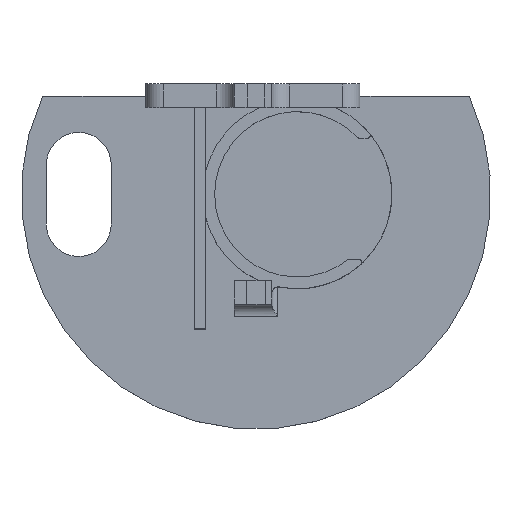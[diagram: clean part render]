
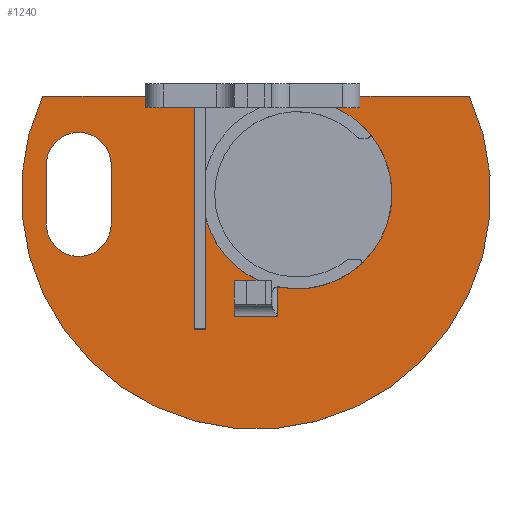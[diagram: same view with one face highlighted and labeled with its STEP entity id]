
A CAD part, top view. The second image highlights one B-rep face of the part: STEP entity #1240.
In plain terms, the highlighted planar face has unit normal (0, 0, 1).
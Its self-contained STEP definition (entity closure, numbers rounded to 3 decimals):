
#17=FACE_BOUND('',#146,.T.);
#33=PLANE('',#1324);
#80=FACE_OUTER_BOUND('',#145,.T.);
#145=EDGE_LOOP('',(#894,#895,#896,#897,#898,#899,#900,#901,#902,#903,#904,
#905,#906,#907,#908,#909,#910));
#146=EDGE_LOOP('',(#911,#912,#913,#914));
#209=LINE('',#1787,#351);
#221=LINE('',#1812,#363);
#240=LINE('',#1856,#382);
#242=LINE('',#1860,#384);
#243=LINE('',#1864,#385);
#244=LINE('',#1866,#386);
#245=LINE('',#1868,#387);
#246=LINE('',#1874,#388);
#247=LINE('',#1876,#389);
#248=LINE('',#1878,#390);
#249=LINE('',#1880,#391);
#250=LINE('',#1884,#392);
#251=LINE('',#1885,#393);
#252=LINE('',#1888,#394);
#253=LINE('',#1892,#395);
#351=VECTOR('',#1428,10.);
#363=VECTOR('',#1444,10.);
#382=VECTOR('',#1483,10.);
#384=VECTOR('',#1487,10.);
#385=VECTOR('',#1490,10.);
#386=VECTOR('',#1491,10.);
#387=VECTOR('',#1492,10.);
#388=VECTOR('',#1497,10.);
#389=VECTOR('',#1498,10.);
#390=VECTOR('',#1499,10.);
#391=VECTOR('',#1500,10.);
#392=VECTOR('',#1503,10.);
#393=VECTOR('',#1504,10.);
#394=VECTOR('',#1505,10.);
#395=VECTOR('',#1508,10.);
#495=CIRCLE('',#1325,39.75);
#496=CIRCLE('',#1326,16.);
#497=CIRCLE('',#1327,1.);
#498=CIRCLE('',#1328,16.);
#499=CIRCLE('',#1329,5.5);
#500=CIRCLE('',#1330,5.5);
#535=VERTEX_POINT('',#1784);
#536=VERTEX_POINT('',#1786);
#547=VERTEX_POINT('',#1810);
#562=VERTEX_POINT('',#1855);
#563=VERTEX_POINT('',#1859);
#564=VERTEX_POINT('',#1861);
#565=VERTEX_POINT('',#1863);
#566=VERTEX_POINT('',#1865);
#567=VERTEX_POINT('',#1867);
#568=VERTEX_POINT('',#1869);
#569=VERTEX_POINT('',#1871);
#570=VERTEX_POINT('',#1873);
#571=VERTEX_POINT('',#1875);
#572=VERTEX_POINT('',#1877);
#573=VERTEX_POINT('',#1879);
#574=VERTEX_POINT('',#1881);
#575=VERTEX_POINT('',#1883);
#576=VERTEX_POINT('',#1886);
#577=VERTEX_POINT('',#1887);
#578=VERTEX_POINT('',#1889);
#579=VERTEX_POINT('',#1891);
#659=EDGE_CURVE('',#536,#535,#209,.T.);
#672=EDGE_CURVE('',#535,#547,#221,.T.);
#693=EDGE_CURVE('',#562,#536,#240,.T.);
#695=EDGE_CURVE('',#547,#563,#242,.F.);
#696=EDGE_CURVE('',#564,#563,#495,.F.);
#697=EDGE_CURVE('',#564,#565,#243,.F.);
#698=EDGE_CURVE('',#565,#566,#244,.T.);
#699=EDGE_CURVE('',#566,#567,#245,.T.);
#700=EDGE_CURVE('',#567,#568,#496,.T.);
#701=EDGE_CURVE('',#568,#569,#497,.T.);
#702=EDGE_CURVE('',#570,#569,#246,.T.);
#703=EDGE_CURVE('',#571,#570,#247,.T.);
#704=EDGE_CURVE('',#571,#572,#248,.T.);
#705=EDGE_CURVE('',#572,#573,#249,.T.);
#706=EDGE_CURVE('',#573,#574,#498,.T.);
#707=EDGE_CURVE('',#574,#575,#250,.T.);
#708=EDGE_CURVE('',#575,#562,#251,.T.);
#709=EDGE_CURVE('',#576,#577,#252,.F.);
#710=EDGE_CURVE('',#577,#578,#499,.F.);
#711=EDGE_CURVE('',#578,#579,#253,.F.);
#712=EDGE_CURVE('',#579,#576,#500,.F.);
#894=ORIENTED_EDGE('',*,*,#659,.T.);
#895=ORIENTED_EDGE('',*,*,#672,.T.);
#896=ORIENTED_EDGE('',*,*,#695,.T.);
#897=ORIENTED_EDGE('',*,*,#696,.F.);
#898=ORIENTED_EDGE('',*,*,#697,.T.);
#899=ORIENTED_EDGE('',*,*,#698,.T.);
#900=ORIENTED_EDGE('',*,*,#699,.T.);
#901=ORIENTED_EDGE('',*,*,#700,.T.);
#902=ORIENTED_EDGE('',*,*,#701,.T.);
#903=ORIENTED_EDGE('',*,*,#702,.F.);
#904=ORIENTED_EDGE('',*,*,#703,.F.);
#905=ORIENTED_EDGE('',*,*,#704,.T.);
#906=ORIENTED_EDGE('',*,*,#705,.T.);
#907=ORIENTED_EDGE('',*,*,#706,.T.);
#908=ORIENTED_EDGE('',*,*,#707,.T.);
#909=ORIENTED_EDGE('',*,*,#708,.T.);
#910=ORIENTED_EDGE('',*,*,#693,.T.);
#911=ORIENTED_EDGE('',*,*,#709,.T.);
#912=ORIENTED_EDGE('',*,*,#710,.T.);
#913=ORIENTED_EDGE('',*,*,#711,.T.);
#914=ORIENTED_EDGE('',*,*,#712,.T.);
#1240=ADVANCED_FACE('',(#80,#17),#33,.F.);
#1324=AXIS2_PLACEMENT_3D('',#1858,#1485,#1486);
#1325=AXIS2_PLACEMENT_3D('',#1862,#1488,#1489);
#1326=AXIS2_PLACEMENT_3D('',#1870,#1493,#1494);
#1327=AXIS2_PLACEMENT_3D('',#1872,#1495,#1496);
#1328=AXIS2_PLACEMENT_3D('',#1882,#1501,#1502);
#1329=AXIS2_PLACEMENT_3D('',#1890,#1506,#1507);
#1330=AXIS2_PLACEMENT_3D('',#1893,#1509,#1510);
#1428=DIRECTION('',(-1.,0.,0.));
#1444=DIRECTION('',(0.,1.,0.));
#1483=DIRECTION('',(0.,1.,0.));
#1485=DIRECTION('center_axis',(0.,0.,-1.));
#1486=DIRECTION('ref_axis',(-1.,0.,0.));
#1487=DIRECTION('',(1.,0.,0.));
#1488=DIRECTION('center_axis',(0.,0.,1.));
#1489=DIRECTION('ref_axis',(-1.,0.,0.));
#1490=DIRECTION('',(1.,0.,0.));
#1491=DIRECTION('',(0.,-1.,0.));
#1492=DIRECTION('',(-1.,0.,0.));
#1493=DIRECTION('center_axis',(0.,0.,-1.));
#1494=DIRECTION('ref_axis',(-1.,0.,0.));
#1495=DIRECTION('center_axis',(0.,0.,1.));
#1496=DIRECTION('ref_axis',(-0.635,0.773,0.));
#1497=DIRECTION('',(0.,1.,0.));
#1498=DIRECTION('',(1.,0.,0.));
#1499=DIRECTION('',(0.,1.,0.));
#1500=DIRECTION('',(1.,0.,0.));
#1501=DIRECTION('center_axis',(0.,0.,-1.));
#1502=DIRECTION('ref_axis',(-1.,0.,0.));
#1503=DIRECTION('',(0.,-1.,0.));
#1504=DIRECTION('',(-1.,0.,0.));
#1505=DIRECTION('',(0.,1.,0.));
#1506=DIRECTION('center_axis',(0.,0.,1.));
#1507=DIRECTION('ref_axis',(-1.,0.,0.));
#1508=DIRECTION('',(0.,-1.,0.));
#1509=DIRECTION('center_axis',(0.,0.,1.));
#1510=DIRECTION('ref_axis',(1.,0.,0.));
#1784=CARTESIAN_POINT('',(-18.7,14.662,-49.878));
#1786=CARTESIAN_POINT('',(-10.495,14.662,-49.878));
#1787=CARTESIAN_POINT('',(-1.85,14.662,-49.878));
#1810=CARTESIAN_POINT('',(-18.7,16.6,-49.878));
#1812=CARTESIAN_POINT('',(-18.7,8.331,-49.878));
#1855=CARTESIAN_POINT('',(-10.495,-22.781,-49.878));
#1856=CARTESIAN_POINT('',(-10.495,-8.391,-49.878));
#1858=CARTESIAN_POINT('Origin',(0.,0.,-49.878));
#1859=CARTESIAN_POINT('',(-36.118,16.6,-49.878));
#1860=CARTESIAN_POINT('',(15.,16.6,-49.878));
#1861=CARTESIAN_POINT('',(36.118,16.6,-49.878));
#1862=CARTESIAN_POINT('Origin',(0.,0.,-49.878));
#1863=CARTESIAN_POINT('',(17.6,16.6,-49.878));
#1864=CARTESIAN_POINT('',(15.,16.6,-49.878));
#1865=CARTESIAN_POINT('',(17.6,15.383,-49.878));
#1866=CARTESIAN_POINT('',(17.6,8.331,-49.878));
#1867=CARTESIAN_POINT('',(11.4,15.383,-49.878));
#1868=CARTESIAN_POINT('',(1.3,15.383,-49.878));
#1869=CARTESIAN_POINT('',(3.894,-15.696,-49.878));
#1870=CARTESIAN_POINT('Origin',(7.,0.,-49.878));
#1871=CARTESIAN_POINT('',(3.7,-15.677,-49.878));
#1872=CARTESIAN_POINT('Origin',(3.7,-16.677,-49.878));
#1873=CARTESIAN_POINT('',(3.7,-20.662,-49.878));
#1874=CARTESIAN_POINT('',(3.7,-8.331,-49.878));
#1875=CARTESIAN_POINT('',(-3.7,-20.662,-49.878));
#1876=CARTESIAN_POINT('',(0.85,-20.662,-49.878));
#1877=CARTESIAN_POINT('',(-3.7,-14.662,-49.878));
#1878=CARTESIAN_POINT('',(-3.7,-8.331,-49.878));
#1879=CARTESIAN_POINT('',(0.595,-14.662,-49.878));
#1880=CARTESIAN_POINT('',(0.85,-14.662,-49.878));
#1881=CARTESIAN_POINT('',(-8.495,-3.987,-49.878));
#1882=CARTESIAN_POINT('Origin',(7.,0.,-49.878));
#1883=CARTESIAN_POINT('',(-8.495,-22.781,-49.878));
#1884=CARTESIAN_POINT('',(-8.495,9.109,-49.878));
#1885=CARTESIAN_POINT('',(-5.248,-22.781,-49.878));
#1886=CARTESIAN_POINT('',(-24.5,5.,-49.878));
#1887=CARTESIAN_POINT('',(-24.5,-5.,-49.878));
#1888=CARTESIAN_POINT('',(-24.5,2.5,-49.878));
#1889=CARTESIAN_POINT('',(-35.5,-5.,-49.878));
#1890=CARTESIAN_POINT('Origin',(-30.,-5.,-49.878));
#1891=CARTESIAN_POINT('',(-35.5,5.,-49.878));
#1892=CARTESIAN_POINT('',(-35.5,-2.5,-49.878));
#1893=CARTESIAN_POINT('Origin',(-30.,5.,-49.878));
